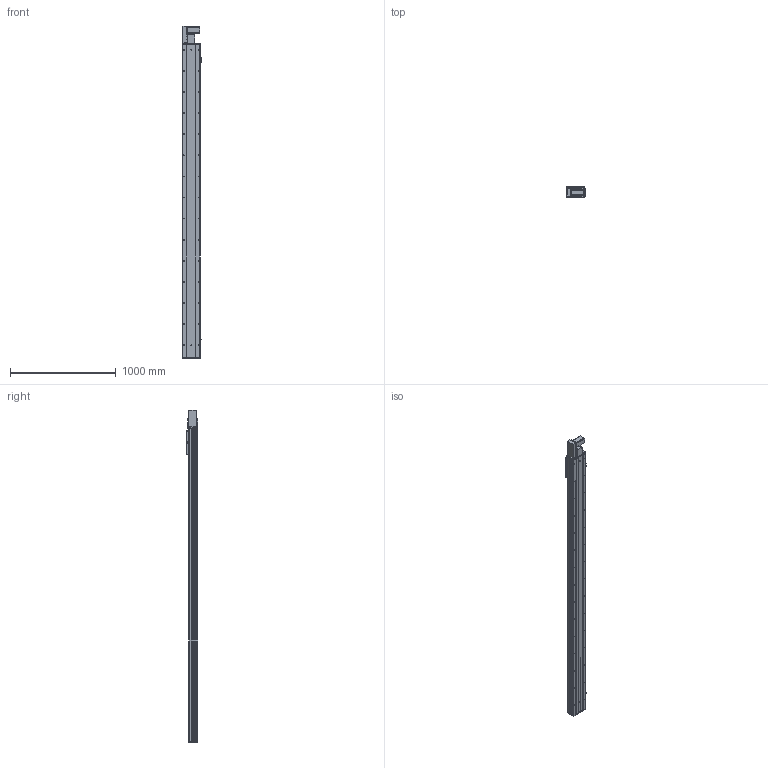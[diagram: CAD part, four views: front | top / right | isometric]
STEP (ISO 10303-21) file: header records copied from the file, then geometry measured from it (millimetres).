
FILE_DESCRIPTION (( 'STEP AP203' ), '1' );
FILE_NAME ('Y170CB-D105-S2650-BL-P400W.STEP', '2020-02-20T01:50:49', ( '微软用户' ), ( '微软中国' ), 'SwSTEP 2.0', 'SolidWorks 2017', '' );
FILE_SCHEMA (( 'CONFIG_CONTROL_DESIGN' ));
Length unit declared in the file: millimetre
Products named in the file (18): 70CB-詩湍--; Y70俋欶BR----; Y100-135俋离換覜ん--; 70CB-掛极-; Y170CB-陔俋离換覜結え---; --70CB --喘謫眊楊擘啣-; 70B喘謫眊----; 70CB-耜裔啣-; Y1埴倛裔; B-源倛裔啣; 70C--詩湍揤踡え-; Y170CB-D105-S2650-BL-P400W; 17B-耜蚾蟀諉啣----; 70CB--耜裔; 0B-萇儂楊擘啣; 70C-雄赽釱-奻-; 0C--雄赽釱俋欶-170; san松下电机400不带刹车----
Assembly tree (21 placements, depth 2):
  Y170CB-D105-S2650-BL-P400W
    B-源倛裔啣
    17B-耜蚾蟀諉啣----
    0B-萇儂楊擘啣
    san松下电机400不带刹车----
    Y70俋欶BR----
    70CB-掛极-
    --70CB --喘謫眊楊擘啣-
    70CB-耜裔啣-  x2
    70C--詩湍揤踡え-  x2
    70CB--耜裔
    70C-雄赽釱-奻-
    0C--雄赽釱俋欶-170
    70CB-詩湍--
    Y100-135俋离換覜ん--  x3
    Y170CB-陔俋离換覜結え---
    70B喘謫眊----
    Y1埴倛裔
Bounding box: 183.5 x 107 x 3147 mm (x, y, z)
Volume: 13034574.1 mm3; surface area: 4706531.6 mm2
Topology: 21 solids, 21 shells, 1071 faces, 2885 edges, 1914 vertices
Faces by surface type: cylinder 583, plane 464, cone 24
Entity records: 34364 total; most frequent: CARTESIAN_POINT 6336, DIRECTION 5590, ORIENTED_EDGE 5252, EDGE_CURVE 2626, AXIS2_PLACEMENT_3D 2064, VERTEX_POINT 1744, LINE 1462, VECTOR 1462
